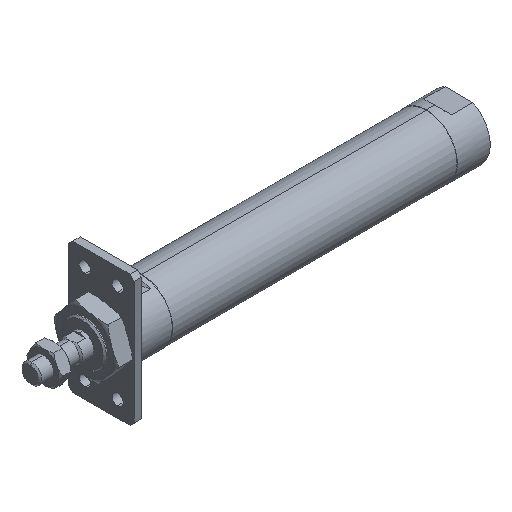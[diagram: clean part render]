
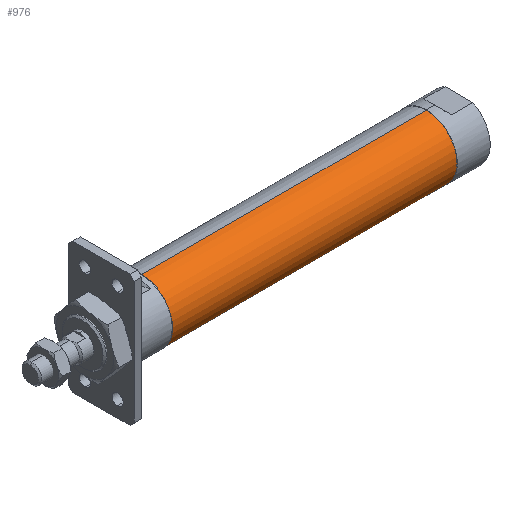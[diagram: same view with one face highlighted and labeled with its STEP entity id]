
A CAD part, isometric view. The second image highlights one B-rep face of the part: STEP entity #976.
In plain terms, the highlighted cylindrical face has radius 18.8 mm (diameter 37.6 mm), a partial arc.
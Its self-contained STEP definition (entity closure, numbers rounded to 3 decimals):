
#93 = VECTOR ( 'NONE', #2521, 1000. ) ;
#407 = DIRECTION ( 'NONE',  ( 0., 0., 1. ) ) ;
#411 = ORIENTED_EDGE ( 'NONE', *, *, #3045, .F. ) ;
#544 = CARTESIAN_POINT ( 'NONE',  ( 68., 0., 18.8 ) ) ;
#853 = CARTESIAN_POINT ( 'NONE',  ( 68., 0., -18.8 ) ) ;
#865 = VERTEX_POINT ( 'NONE', #3862 ) ;
#976 = ADVANCED_FACE ( 'NONE', ( #3013 ), #3123, .T. ) ;
#1025 = LINE ( 'NONE', #2223, #93 ) ;
#1073 = EDGE_CURVE ( 'NONE', #1825, #1253, #3474, .T. ) ;
#1082 = VERTEX_POINT ( 'NONE', #1841 ) ;
#1228 = LINE ( 'NONE', #1404, #1968 ) ;
#1253 = VERTEX_POINT ( 'NONE', #544 ) ;
#1404 = CARTESIAN_POINT ( 'NONE',  ( -1.784, 0., 18.8 ) ) ;
#1825 = VERTEX_POINT ( 'NONE', #853 ) ;
#1841 = CARTESIAN_POINT ( 'NONE',  ( 242., 0., -18.8 ) ) ;
#1968 = VECTOR ( 'NONE', #3617, 1000. ) ;
#2045 = DIRECTION ( 'NONE',  ( -1., 0., 0. ) ) ;
#2145 = CIRCLE ( 'NONE', #3869, 18.8 ) ;
#2183 = AXIS2_PLACEMENT_3D ( 'NONE', #3036, #2045, #407 ) ;
#2223 = CARTESIAN_POINT ( 'NONE',  ( -1.784, 0., -18.8 ) ) ;
#2394 = DIRECTION ( 'NONE',  ( -1., 0., 0. ) ) ;
#2395 = EDGE_LOOP ( 'NONE', ( #411, #2718, #2512, #3199 ) ) ;
#2507 = CARTESIAN_POINT ( 'NONE',  ( 68., 0., 0. ) ) ;
#2512 = ORIENTED_EDGE ( 'NONE', *, *, #3451, .T. ) ;
#2521 = DIRECTION ( 'NONE',  ( -1., 0., 0. ) ) ;
#2718 = ORIENTED_EDGE ( 'NONE', *, *, #4043, .T. ) ;
#2817 = AXIS2_PLACEMENT_3D ( 'NONE', #2507, #4065, #3150 ) ;
#3013 = FACE_OUTER_BOUND ( 'NONE', #2395, .T. ) ;
#3036 = CARTESIAN_POINT ( 'NONE',  ( -1.784, 0., 0. ) ) ;
#3045 = EDGE_CURVE ( 'NONE', #1082, #1825, #1025, .T. ) ;
#3084 = DIRECTION ( 'NONE',  ( 0., 0., 1. ) ) ;
#3123 = CYLINDRICAL_SURFACE ( 'NONE', #2183, 18.8 ) ;
#3150 = DIRECTION ( 'NONE',  ( 0., 0., 1. ) ) ;
#3199 = ORIENTED_EDGE ( 'NONE', *, *, #1073, .F. ) ;
#3451 = EDGE_CURVE ( 'NONE', #865, #1253, #1228, .T. ) ;
#3474 = CIRCLE ( 'NONE', #2817, 18.8 ) ;
#3617 = DIRECTION ( 'NONE',  ( -1., 0., 0. ) ) ;
#3862 = CARTESIAN_POINT ( 'NONE',  ( 242., 0., 18.8 ) ) ;
#3869 = AXIS2_PLACEMENT_3D ( 'NONE', #4029, #2394, #3084 ) ;
#4029 = CARTESIAN_POINT ( 'NONE',  ( 242., 0., 0. ) ) ;
#4043 = EDGE_CURVE ( 'NONE', #1082, #865, #2145, .T. ) ;
#4065 = DIRECTION ( 'NONE',  ( -1., 0., 0. ) ) ;
